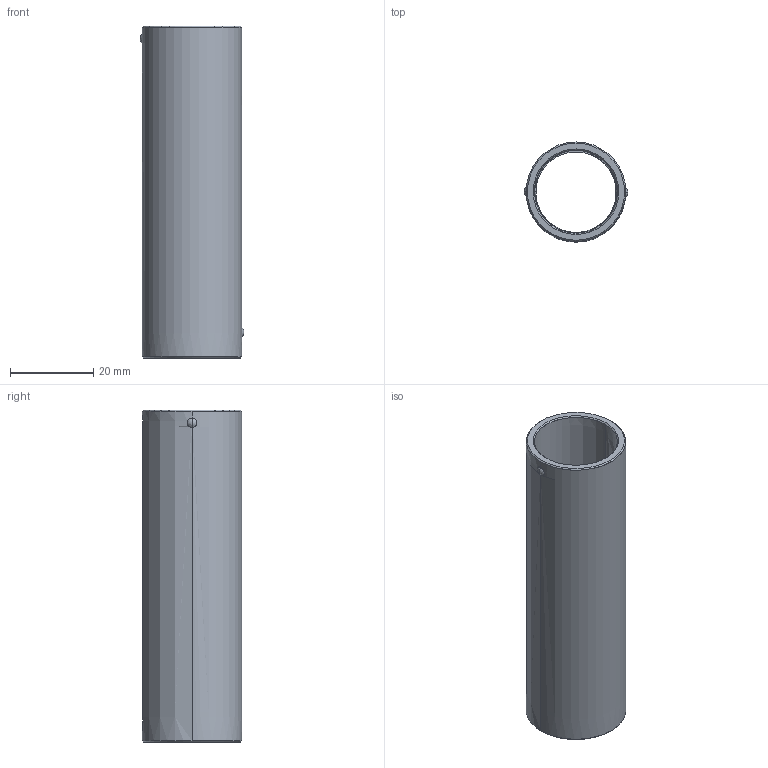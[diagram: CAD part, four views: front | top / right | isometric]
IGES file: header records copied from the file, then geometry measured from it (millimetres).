
Start section: START RECORD GO HERE.
Global section: file name: 730-19x80.igs; native system: DASSAULT SYSTEMES CATIA V5 R20 - www.3ds.com; preprocessor: CATIA Version 5 Release 20 ; author: Utente; organization: NB04-ASUS; date: 20210107.171651; units: millimetre
Bounding box: 25 x 24 x 80 mm (x, y, z)
Surface area: 11506.6 mm2 (no closed solid volume)
Topology: 0 solids, 0 shells, 44 faces, 240 edges, 240 vertices
Faces by surface type: revolution 36, plane 8
